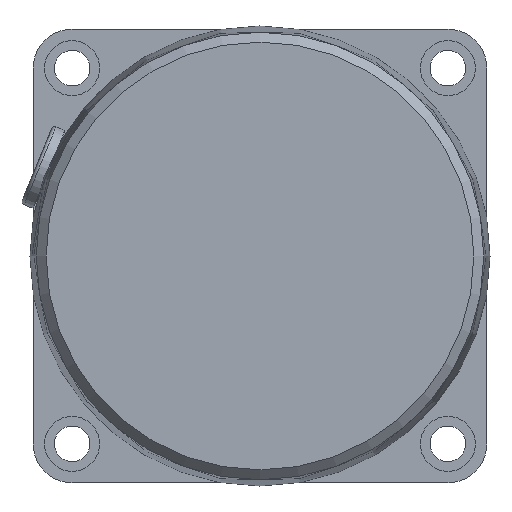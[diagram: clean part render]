
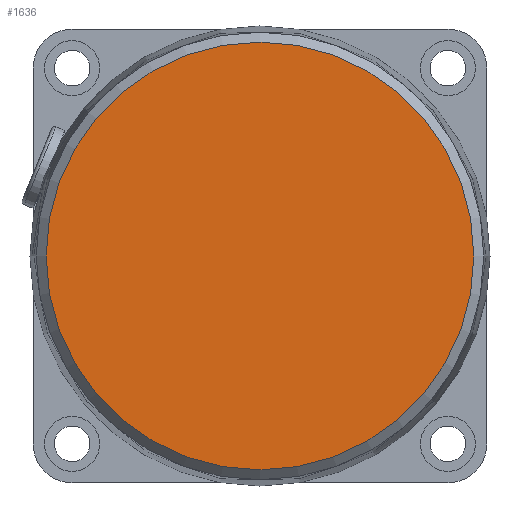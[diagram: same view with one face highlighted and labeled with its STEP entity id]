
A CAD part, left-side view. The second image highlights one B-rep face of the part: STEP entity #1636.
In plain terms, the highlighted planar face has unit normal (-1, 0, 0) as drawn and (0, 0, -1) by its records, which use the part's own axes.
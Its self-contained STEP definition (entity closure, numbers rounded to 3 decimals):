
#1620=CARTESIAN_POINT('',(0.0,0.0,-44.3));
#1621=DIRECTION('',(0.0,0.0,1.0));
#1622=DIRECTION('',(1.0,0.0,0.0));
#1623=AXIS2_PLACEMENT_3D('',#1620,#1621,#1622);
#1624=PLANE('',#1623);
#1625=CARTESIAN_POINT('',(-33.0,0.,-44.3));
#1626=VERTEX_POINT('',#1625);
#1627=CARTESIAN_POINT('',(0.0,0.0,-44.3));
#1628=DIRECTION('',(0.0,0.0,1.0));
#1629=DIRECTION('',(1.0,0.0,0.0));
#1630=AXIS2_PLACEMENT_3D('',#1627,#1628,#1629);
#1631=CIRCLE('',#1630,33.0);
#1632=EDGE_CURVE('',#1626,#1626,#1631,.T.);
#1633=ORIENTED_EDGE('',*,*,#1632,.F.);
#1634=EDGE_LOOP('',(#1633));
#1635=FACE_OUTER_BOUND('',#1634,.T.);
#1636=ADVANCED_FACE('',(#1635),#1624,.F.);
